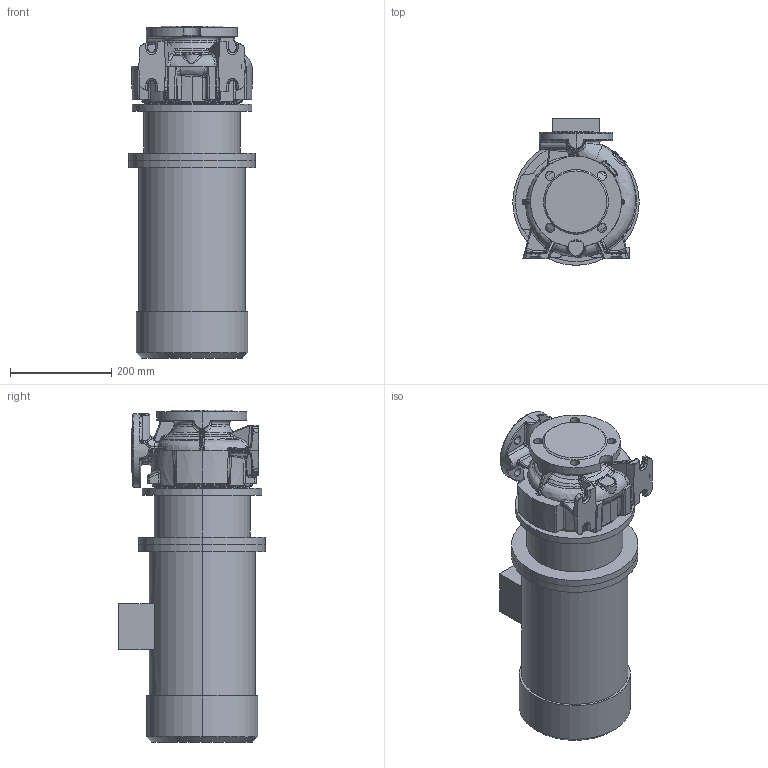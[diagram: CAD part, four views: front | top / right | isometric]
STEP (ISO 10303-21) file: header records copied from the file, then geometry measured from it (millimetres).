
FILE_DESCRIPTION (( 'STEP AP203' ), '1' );
FILE_NAME ('KRM 65-40-125-2-4.STEP', '2026-09-18T12:44:01', ( '' ), ( '' ), 'SwSTEP 2.0', 'SolidWorks 2016', '' );
FILE_SCHEMA (( 'CONFIG_CONTROL_DESIGN' ));
Length unit declared in the file: millimetre
Products named in the file (1): KRM 65-40-125-2-4
Bounding box: 250 x 290 x 656.3 mm (x, y, z)
Volume: 23548524.7 mm3; surface area: 961083.7 mm2
Topology: 5 solids, 5 shells, 924 faces, 2194 edges, 1266 vertices
Faces by surface type: bspline 403, cylinder 205, plane 142, torus 70, sphere 54, cone 50
Entity records: 58859 total; most frequent: CARTESIAN_POINT 40848, ORIENTED_EDGE 4324, DIRECTION 3072, EDGE_CURVE 2162, AXIS2_PLACEMENT_3D 1332, VERTEX_POINT 1262, EDGE_LOOP 954, ADVANCED_FACE 924
